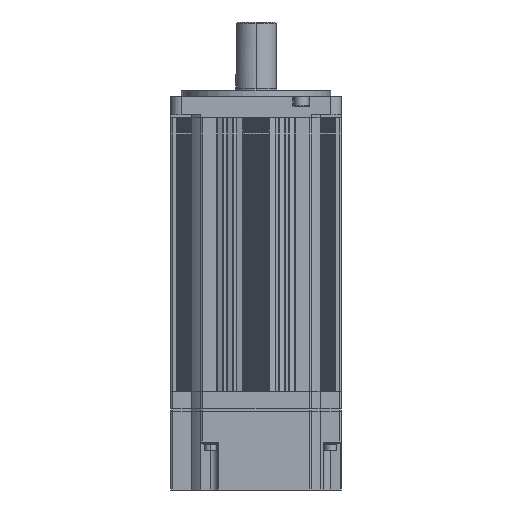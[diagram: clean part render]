
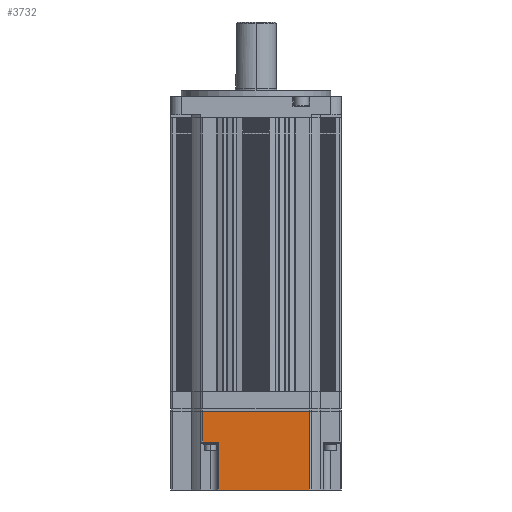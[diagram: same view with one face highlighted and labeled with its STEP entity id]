
A CAD part, front view. The second image highlights one B-rep face of the part: STEP entity #3732.
In plain terms, the highlighted planar face has unit normal (0, -1, 0).
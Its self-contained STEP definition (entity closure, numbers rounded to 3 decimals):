
#880 = CARTESIAN_POINT ( 'NONE',  ( 17.422, -40., 14.5 ) ) ;
#2469 = PLANE ( 'NONE',  #50940 ) ;
#3320 = EDGE_CURVE ( 'NONE', #26688, #69023, #24535, .T. ) ;
#3467 = ORIENTED_EDGE ( 'NONE', *, *, #32615, .T. ) ;
#3732 = ADVANCED_FACE ( 'NONE', ( #17500 ), #2469, .F. ) ;
#3871 = CARTESIAN_POINT ( 'NONE',  ( 26., -40., 0. ) ) ;
#4375 = VECTOR ( 'NONE', #62823, 1000. ) ;
#4998 = VERTEX_POINT ( 'NONE', #66545 ) ;
#10641 = ORIENTED_EDGE ( 'NONE', *, *, #37860, .T. ) ;
#17446 = CARTESIAN_POINT ( 'NONE',  ( 26., -40., 37. ) ) ;
#17500 = FACE_OUTER_BOUND ( 'NONE', #34446, .T. ) ;
#21021 = ORIENTED_EDGE ( 'NONE', *, *, #41438, .T. ) ;
#21301 = LINE ( 'NONE', #39438, #36217 ) ;
#23278 = CARTESIAN_POINT ( 'NONE',  ( 17.422, -40., 14.5 ) ) ;
#24442 = VERTEX_POINT ( 'NONE', #39170 ) ;
#24535 = LINE ( 'NONE', #17446, #52634 ) ;
#24688 = LINE ( 'NONE', #23278, #37829 ) ;
#26350 = ORIENTED_EDGE ( 'NONE', *, *, #58710, .T. ) ;
#26688 = VERTEX_POINT ( 'NONE', #43669 ) ;
#28916 = DIRECTION ( 'NONE',  ( -1., 0., 0. ) ) ;
#30632 = LINE ( 'NONE', #3871, #45596 ) ;
#32374 = ORIENTED_EDGE ( 'NONE', *, *, #3320, .F. ) ;
#32615 = EDGE_CURVE ( 'NONE', #4998, #69178, #24688, .T. ) ;
#33637 = CARTESIAN_POINT ( 'NONE',  ( 17.422, -40., 37. ) ) ;
#34446 = EDGE_LOOP ( 'NONE', ( #26350, #3467, #34714, #32374, #10641, #21021 ) ) ;
#34714 = ORIENTED_EDGE ( 'NONE', *, *, #61279, .T. ) ;
#36217 = VECTOR ( 'NONE', #39681, 1000. ) ;
#37829 = VECTOR ( 'NONE', #28916, 1000. ) ;
#37860 = EDGE_CURVE ( 'NONE', #26688, #24442, #21301, .T. ) ;
#39170 = CARTESIAN_POINT ( 'NONE',  ( -25., -40., 0. ) ) ;
#39438 = CARTESIAN_POINT ( 'NONE',  ( -25., -40., 37. ) ) ;
#39681 = DIRECTION ( 'NONE',  ( 0., 0., -1. ) ) ;
#40913 = DIRECTION ( 'NONE',  ( 0., 0., 1. ) ) ;
#41072 = DIRECTION ( 'NONE',  ( 0., 1., 0. ) ) ;
#41438 = EDGE_CURVE ( 'NONE', #24442, #67553, #30632, .T. ) ;
#42825 = DIRECTION ( 'NONE',  ( 0., 0., 1. ) ) ;
#43669 = CARTESIAN_POINT ( 'NONE',  ( -25., -40., 37. ) ) ;
#45596 = VECTOR ( 'NONE', #49116, 1000. ) ;
#49116 = DIRECTION ( 'NONE',  ( 1., 0., 0. ) ) ;
#49495 = LINE ( 'NONE', #57180, #4375 ) ;
#50233 = CARTESIAN_POINT ( 'NONE',  ( 26., -40., 37. ) ) ;
#50940 = AXIS2_PLACEMENT_3D ( 'NONE', #50233, #41072, #40913 ) ;
#52634 = VECTOR ( 'NONE', #69379, 1000. ) ;
#57180 = CARTESIAN_POINT ( 'NONE',  ( 17.422, -40., 37. ) ) ;
#58710 = EDGE_CURVE ( 'NONE', #67553, #4998, #61052, .T. ) ;
#59297 = VECTOR ( 'NONE', #42825, 1000. ) ;
#59874 = CARTESIAN_POINT ( 'NONE',  ( 25., -40., 37. ) ) ;
#61052 = LINE ( 'NONE', #59874, #59297 ) ;
#61279 = EDGE_CURVE ( 'NONE', #69178, #69023, #49495, .T. ) ;
#62823 = DIRECTION ( 'NONE',  ( 0., 0., 1. ) ) ;
#66545 = CARTESIAN_POINT ( 'NONE',  ( 25., -40., 14.5 ) ) ;
#67553 = VERTEX_POINT ( 'NONE', #71259 ) ;
#69023 = VERTEX_POINT ( 'NONE', #33637 ) ;
#69178 = VERTEX_POINT ( 'NONE', #880 ) ;
#69379 = DIRECTION ( 'NONE',  ( 1., 0., 0. ) ) ;
#71259 = CARTESIAN_POINT ( 'NONE',  ( 25., -40., 0. ) ) ;
